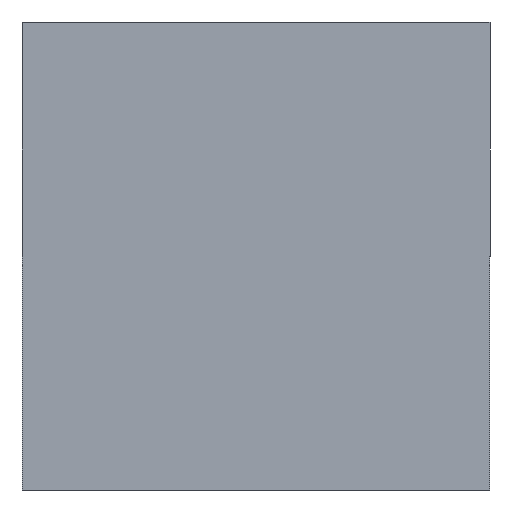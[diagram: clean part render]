
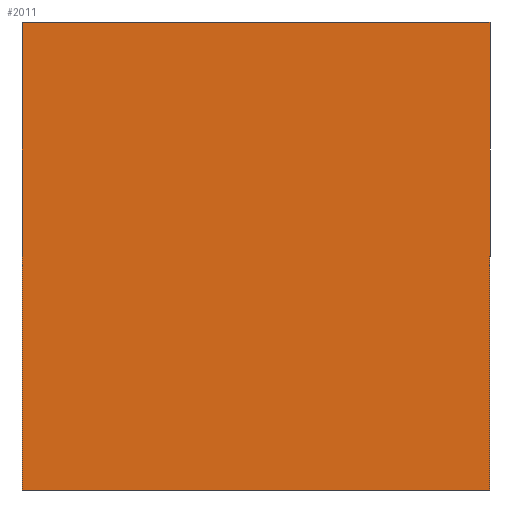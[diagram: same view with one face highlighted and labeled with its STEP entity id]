
A CAD part, front view. The second image highlights one B-rep face of the part: STEP entity #2011.
In plain terms, the highlighted planar face has unit normal (0, -1, 0).
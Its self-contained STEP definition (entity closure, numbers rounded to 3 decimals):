
#80 = CARTESIAN_POINT ( 'NONE',  ( -6.75, 0., 6.75 ) ) ;
#237 = LINE ( 'NONE', #80, #877 ) ;
#263 = AXIS2_PLACEMENT_3D ( 'NONE', #2609, #2829, #1299 ) ;
#273 = DIRECTION ( 'NONE',  ( 0., 0., 1. ) ) ;
#279 = ORIENTED_EDGE ( 'NONE', *, *, #893, .F. ) ;
#293 = DIRECTION ( 'NONE',  ( 1., 0., 0. ) ) ;
#322 = DIRECTION ( 'NONE',  ( 0., 0., -1. ) ) ;
#355 = VECTOR ( 'NONE', #651, 1000. ) ;
#411 = VERTEX_POINT ( 'NONE', #2276 ) ;
#452 = EDGE_CURVE ( 'NONE', #2176, #411, #1415, .T. ) ;
#567 = CARTESIAN_POINT ( 'NONE',  ( 6.75, 0., -6.75 ) ) ;
#582 = LINE ( 'NONE', #1643, #2182 ) ;
#596 = VECTOR ( 'NONE', #273, 1000. ) ;
#651 = DIRECTION ( 'NONE',  ( -1., 0., 0. ) ) ;
#871 = LINE ( 'NONE', #1314, #355 ) ;
#877 = VECTOR ( 'NONE', #293, 1000. ) ;
#893 = EDGE_CURVE ( 'NONE', #411, #2028, #237, .T. ) ;
#1132 = ORIENTED_EDGE ( 'NONE', *, *, #452, .F. ) ;
#1288 = FACE_OUTER_BOUND ( 'NONE', #1546, .T. ) ;
#1299 = DIRECTION ( 'NONE',  ( 0., 0., 1. ) ) ;
#1314 = CARTESIAN_POINT ( 'NONE',  ( -6.75, 0., -6.75 ) ) ;
#1405 = ORIENTED_EDGE ( 'NONE', *, *, #2673, .F. ) ;
#1415 = LINE ( 'NONE', #2227, #596 ) ;
#1457 = CARTESIAN_POINT ( 'NONE',  ( 6.75, 0., 6.75 ) ) ;
#1546 = EDGE_LOOP ( 'NONE', ( #1132, #2345, #1405, #279 ) ) ;
#1643 = CARTESIAN_POINT ( 'NONE',  ( 6.75, 0., -6.75 ) ) ;
#1901 = VERTEX_POINT ( 'NONE', #567 ) ;
#2011 = ADVANCED_FACE ( 'NONE', ( #1288 ), #2554, .F. ) ;
#2028 = VERTEX_POINT ( 'NONE', #1457 ) ;
#2176 = VERTEX_POINT ( 'NONE', #2212 ) ;
#2182 = VECTOR ( 'NONE', #322, 1000. ) ;
#2212 = CARTESIAN_POINT ( 'NONE',  ( -6.75, 0., -6.75 ) ) ;
#2227 = CARTESIAN_POINT ( 'NONE',  ( -6.75, 0., -6.75 ) ) ;
#2276 = CARTESIAN_POINT ( 'NONE',  ( -6.75, 0., 6.75 ) ) ;
#2345 = ORIENTED_EDGE ( 'NONE', *, *, #2818, .F. ) ;
#2554 = PLANE ( 'NONE',  #263 ) ;
#2609 = CARTESIAN_POINT ( 'NONE',  ( 0., 0., 0. ) ) ;
#2673 = EDGE_CURVE ( 'NONE', #2028, #1901, #582, .T. ) ;
#2818 = EDGE_CURVE ( 'NONE', #1901, #2176, #871, .T. ) ;
#2829 = DIRECTION ( 'NONE',  ( 0., 1., 0. ) ) ;
